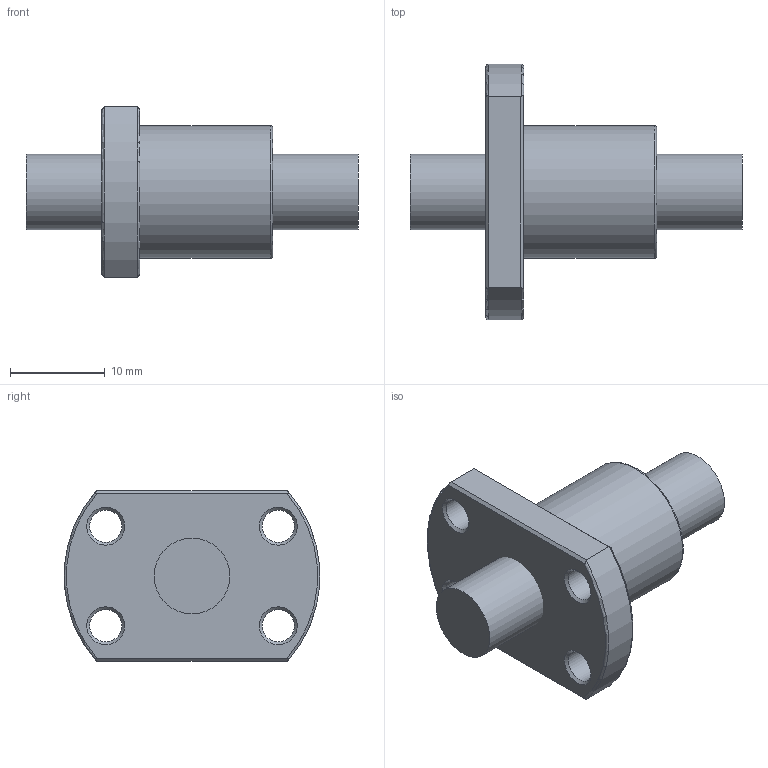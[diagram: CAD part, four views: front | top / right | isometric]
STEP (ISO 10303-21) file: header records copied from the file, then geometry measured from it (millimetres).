
FILE_DESCRIPTION(/* description */ (''),/* implementation_level */ '2;1');
FILE_NAME(/* name */ 'model3.stp',/* time_stamp */ '2022-07-04T14:41:06+08:00',/* author */ (''),/* organization */ (''),/* preprocessor_version */ 'ST-DEVELOPER v16.7',/* originating_system */ 'SIEMENS PLM Software NX 1892',/* authorisation */ '');
FILE_SCHEMA (('AUTOMOTIVE_DESIGN { 1 0 10303 214 3 1 1 1 }'));
Length unit declared in the file: millimetre
Products named in the file (1): 0316263C86F4h3pc
Bounding box: 35 x 26.91 x 18 mm (x, y, z)
Volume: 5548.3 mm3; surface area: 2865.4 mm2
Topology: 2 solids, 2 shells, 32 faces, 76 edges, 49 vertices
Faces by surface type: plane 11, cylinder 8, cone 8, torus 5
Full cylindrical faces by diameter (mm): 3.4 x4, 8 x1, 14 x1
Entity records: 1031 total; most frequent: CARTESIAN_POINT 303, DIRECTION 152, ORIENTED_EDGE 114, AXIS2_PLACEMENT_3D 70, EDGE_CURVE 57, EDGE_LOOP 56, VERTEX_POINT 45, FACE_BOUND 41
